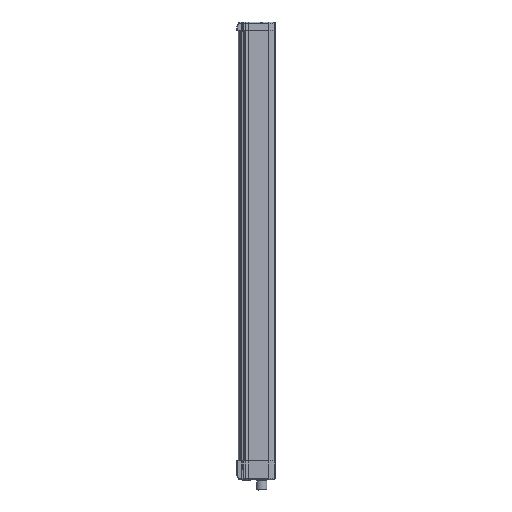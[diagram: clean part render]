
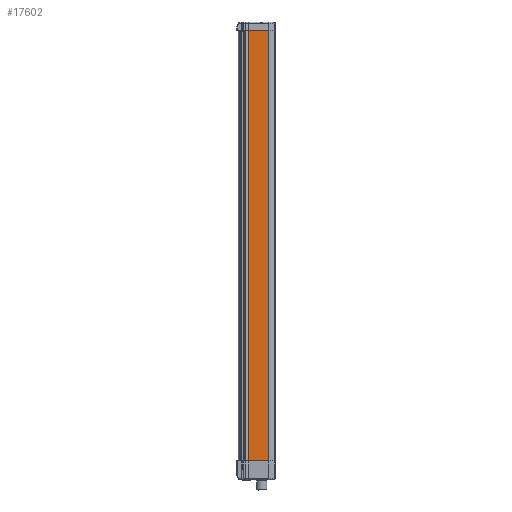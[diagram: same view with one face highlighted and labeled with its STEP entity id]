
A CAD part, left-side view. The second image highlights one B-rep face of the part: STEP entity #17602.
In plain terms, the highlighted planar face has unit normal (-1, 0, 0).
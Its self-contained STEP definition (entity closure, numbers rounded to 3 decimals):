
#1892 = AXIS2_PLACEMENT_3D ( 'NONE', #277376, #256201, #123237 ) ;
#15274 = ORIENTED_EDGE ( 'NONE', *, *, #237847, .F. ) ;
#17602 = ADVANCED_FACE ( 'NONE', ( #240629 ), #78443, .F. ) ;
#30636 = LINE ( 'NONE', #275149, #142287 ) ;
#33510 = LINE ( 'NONE', #169646, #145207 ) ;
#64504 = LINE ( 'NONE', #168290, #116771 ) ;
#78443 = PLANE ( 'NONE',  #1892 ) ;
#102526 = DIRECTION ( 'NONE',  ( 0., 0., -1. ) ) ;
#116771 = VECTOR ( 'NONE', #235231, 1000. ) ;
#123237 = DIRECTION ( 'NONE',  ( 0., 0., -1. ) ) ;
#125622 = CARTESIAN_POINT ( 'NONE',  ( -22.5, -14.5, -250. ) ) ;
#127089 = CARTESIAN_POINT ( 'NONE',  ( -22.5, 8.8, 251. ) ) ;
#129873 = EDGE_CURVE ( 'NONE', #167850, #270132, #30636, .T. ) ;
#139222 = EDGE_CURVE ( 'NONE', #194147, #185495, #248352, .T. ) ;
#142287 = VECTOR ( 'NONE', #164703, 1000. ) ;
#145207 = VECTOR ( 'NONE', #102526, 1000. ) ;
#151896 = CARTESIAN_POINT ( 'NONE',  ( -22.5, 8.8, -250. ) ) ;
#157811 = ORIENTED_EDGE ( 'NONE', *, *, #139222, .T. ) ;
#162277 = CARTESIAN_POINT ( 'NONE',  ( -22.5, -14.5, 251. ) ) ;
#164703 = DIRECTION ( 'NONE',  ( 0., 1., 0. ) ) ;
#167850 = VERTEX_POINT ( 'NONE', #125622 ) ;
#168290 = CARTESIAN_POINT ( 'NONE',  ( -22.5, 8.8, 0. ) ) ;
#169646 = CARTESIAN_POINT ( 'NONE',  ( -22.5, -14.5, 0. ) ) ;
#185495 = VERTEX_POINT ( 'NONE', #127089 ) ;
#189415 = VECTOR ( 'NONE', #200702, 1000. ) ;
#189477 = EDGE_CURVE ( 'NONE', #185495, #270132, #64504, .T. ) ;
#194147 = VERTEX_POINT ( 'NONE', #162277 ) ;
#200702 = DIRECTION ( 'NONE',  ( 0., 1., 0. ) ) ;
#231261 = ORIENTED_EDGE ( 'NONE', *, *, #129873, .F. ) ;
#235231 = DIRECTION ( 'NONE',  ( 0., 0., -1. ) ) ;
#237847 = EDGE_CURVE ( 'NONE', #194147, #167850, #33510, .T. ) ;
#240629 = FACE_OUTER_BOUND ( 'NONE', #271929, .T. ) ;
#244165 = CARTESIAN_POINT ( 'NONE',  ( -22.5, -14.5, 251. ) ) ;
#248352 = LINE ( 'NONE', #244165, #189415 ) ;
#256201 = DIRECTION ( 'NONE',  ( 1., 0., 0. ) ) ;
#270132 = VERTEX_POINT ( 'NONE', #151896 ) ;
#271929 = EDGE_LOOP ( 'NONE', ( #157811, #286080, #231261, #15274 ) ) ;
#275149 = CARTESIAN_POINT ( 'NONE',  ( -22.5, -14.5, -250. ) ) ;
#277376 = CARTESIAN_POINT ( 'NONE',  ( -22.5, -14.5, 0. ) ) ;
#286080 = ORIENTED_EDGE ( 'NONE', *, *, #189477, .T. ) ;
